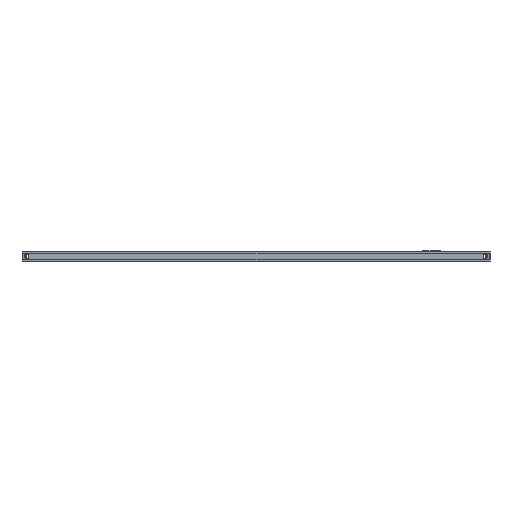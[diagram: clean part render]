
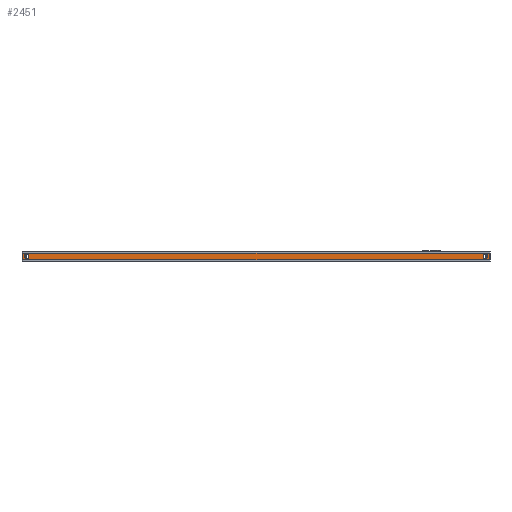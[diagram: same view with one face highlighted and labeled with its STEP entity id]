
A CAD part, left-side view. The second image highlights one B-rep face of the part: STEP entity #2451.
In plain terms, the highlighted planar face has unit normal (-1, 0, 0).
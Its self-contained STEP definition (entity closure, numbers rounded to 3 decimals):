
#115 = EDGE_CURVE ( 'NONE', #3552, #5673, #4823, .T. ) ;
#175 = EDGE_CURVE ( 'NONE', #2982, #499, #8662, .T. ) ;
#261 = EDGE_CURVE ( 'NONE', #606, #4532, #10718, .T. ) ;
#296 = FACE_OUTER_BOUND ( 'NONE', #6157, .T. ) ;
#399 = CARTESIAN_POINT ( 'NONE',  ( -295., -304., -8.5 ) ) ;
#434 = DIRECTION ( 'NONE',  ( 0., 1., 0. ) ) ;
#499 = VERTEX_POINT ( 'NONE', #8434 ) ;
#601 = CARTESIAN_POINT ( 'NONE',  ( -295., -299., -4. ) ) ;
#606 = VERTEX_POINT ( 'NONE', #7693 ) ;
#1196 = CARTESIAN_POINT ( 'NONE',  ( -295., 305., -8.5 ) ) ;
#1444 = DIRECTION ( 'NONE',  ( 0., 1., 0. ) ) ;
#1739 = FACE_BOUND ( 'NONE', #3491, .T. ) ;
#1833 = VERTEX_POINT ( 'NONE', #7773 ) ;
#1858 = DIRECTION ( 'NONE',  ( -1., 0., 0. ) ) ;
#1887 = CIRCLE ( 'NONE', #9638, 3. ) ;
#1896 = LINE ( 'NONE', #8749, #9920 ) ;
#1957 = EDGE_CURVE ( 'NONE', #8549, #5673, #1896, .T. ) ;
#2074 = DIRECTION ( 'NONE',  ( 0., -1., 0. ) ) ;
#2451 = ADVANCED_FACE ( 'NONE', ( #1739, #6207, #296 ), #4225, .F. ) ;
#2583 = EDGE_CURVE ( 'NONE', #499, #2982, #1887, .T. ) ;
#2585 = VECTOR ( 'NONE', #6199, 1000. ) ;
#2748 = EDGE_LOOP ( 'NONE', ( #4357, #4500 ) ) ;
#2955 = CARTESIAN_POINT ( 'NONE',  ( -295., 304., -8.5 ) ) ;
#2982 = VERTEX_POINT ( 'NONE', #4284 ) ;
#3051 = CARTESIAN_POINT ( 'NONE',  ( -295., -299., -4. ) ) ;
#3491 = EDGE_LOOP ( 'NONE', ( #10707, #10105 ) ) ;
#3543 = AXIS2_PLACEMENT_3D ( 'NONE', #3051, #4727, #6478 ) ;
#3552 = VERTEX_POINT ( 'NONE', #4235 ) ;
#3596 = CIRCLE ( 'NONE', #3543, 3. ) ;
#4151 = AXIS2_PLACEMENT_3D ( 'NONE', #5443, #7095, #434 ) ;
#4192 = DIRECTION ( 'NONE',  ( 1., 0., 0. ) ) ;
#4225 = PLANE ( 'NONE',  #10205 ) ;
#4235 = CARTESIAN_POINT ( 'NONE',  ( -295., -304., -8.5 ) ) ;
#4284 = CARTESIAN_POINT ( 'NONE',  ( -295., 296., -4. ) ) ;
#4357 = ORIENTED_EDGE ( 'NONE', *, *, #2583, .F. ) ;
#4500 = ORIENTED_EDGE ( 'NONE', *, *, #175, .F. ) ;
#4532 = VERTEX_POINT ( 'NONE', #5933 ) ;
#4727 = DIRECTION ( 'NONE',  ( -1., 0., 0. ) ) ;
#4749 = LINE ( 'NONE', #2955, #6071 ) ;
#4823 = LINE ( 'NONE', #399, #2585 ) ;
#5125 = CARTESIAN_POINT ( 'NONE',  ( -295., -304., 0. ) ) ;
#5143 = ORIENTED_EDGE ( 'NONE', *, *, #115, .T. ) ;
#5443 = CARTESIAN_POINT ( 'NONE',  ( -295., 299., -4. ) ) ;
#5673 = VERTEX_POINT ( 'NONE', #5125 ) ;
#5933 = CARTESIAN_POINT ( 'NONE',  ( -295., -296., -4. ) ) ;
#6071 = VECTOR ( 'NONE', #8955, 1000. ) ;
#6157 = EDGE_LOOP ( 'NONE', ( #8311, #9179, #6946, #5143 ) ) ;
#6199 = DIRECTION ( 'NONE',  ( 0., 0., 1. ) ) ;
#6207 = FACE_BOUND ( 'NONE', #2748, .T. ) ;
#6384 = EDGE_CURVE ( 'NONE', #4532, #606, #3596, .T. ) ;
#6399 = VECTOR ( 'NONE', #2074, 1000. ) ;
#6478 = DIRECTION ( 'NONE',  ( 0., 1., 0. ) ) ;
#6946 = ORIENTED_EDGE ( 'NONE', *, *, #9089, .T. ) ;
#7095 = DIRECTION ( 'NONE',  ( -1., 0., 0. ) ) ;
#7184 = LINE ( 'NONE', #1196, #6399 ) ;
#7509 = EDGE_CURVE ( 'NONE', #8549, #1833, #4749, .T. ) ;
#7693 = CARTESIAN_POINT ( 'NONE',  ( -295., -302., -4. ) ) ;
#7773 = CARTESIAN_POINT ( 'NONE',  ( -295., 304., -8.5 ) ) ;
#8281 = CARTESIAN_POINT ( 'NONE',  ( -295., 304., 0. ) ) ;
#8311 = ORIENTED_EDGE ( 'NONE', *, *, #1957, .F. ) ;
#8401 = DIRECTION ( 'NONE',  ( 0., -1., 0. ) ) ;
#8434 = CARTESIAN_POINT ( 'NONE',  ( -295., 302., -4. ) ) ;
#8549 = VERTEX_POINT ( 'NONE', #8281 ) ;
#8608 = CARTESIAN_POINT ( 'NONE',  ( -295., 299., -4. ) ) ;
#8662 = CIRCLE ( 'NONE', #4151, 3. ) ;
#8749 = CARTESIAN_POINT ( 'NONE',  ( -295., 305., 0. ) ) ;
#8867 = AXIS2_PLACEMENT_3D ( 'NONE', #601, #8926, #1444 ) ;
#8926 = DIRECTION ( 'NONE',  ( -1., 0., 0. ) ) ;
#8955 = DIRECTION ( 'NONE',  ( 0., 0., -1. ) ) ;
#9089 = EDGE_CURVE ( 'NONE', #1833, #3552, #7184, .T. ) ;
#9179 = ORIENTED_EDGE ( 'NONE', *, *, #7509, .T. ) ;
#9638 = AXIS2_PLACEMENT_3D ( 'NONE', #8608, #1858, #10206 ) ;
#9920 = VECTOR ( 'NONE', #10245, 1000. ) ;
#10058 = CARTESIAN_POINT ( 'NONE',  ( -295., 305., -8.5 ) ) ;
#10105 = ORIENTED_EDGE ( 'NONE', *, *, #261, .F. ) ;
#10205 = AXIS2_PLACEMENT_3D ( 'NONE', #10058, #4192, #8401 ) ;
#10206 = DIRECTION ( 'NONE',  ( 0., 1., 0. ) ) ;
#10245 = DIRECTION ( 'NONE',  ( 0., -1., 0. ) ) ;
#10707 = ORIENTED_EDGE ( 'NONE', *, *, #6384, .F. ) ;
#10718 = CIRCLE ( 'NONE', #8867, 3. ) ;
